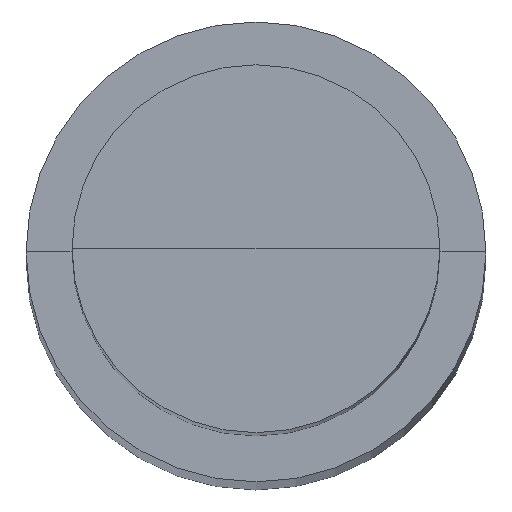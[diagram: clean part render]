
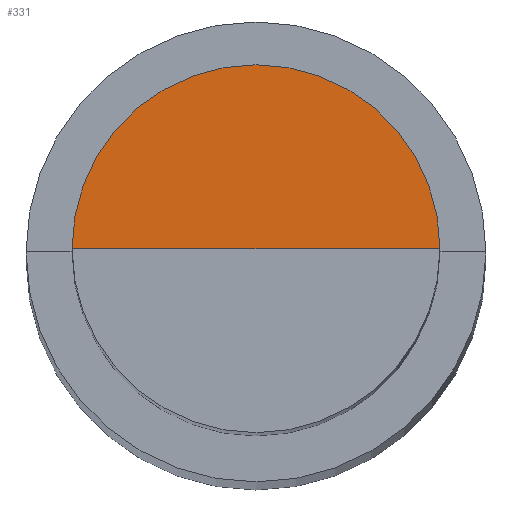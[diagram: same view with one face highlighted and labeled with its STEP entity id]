
A CAD part, top view. The second image highlights one B-rep face of the part: STEP entity #331.
In plain terms, the highlighted planar face has unit normal (0, 0, 1).
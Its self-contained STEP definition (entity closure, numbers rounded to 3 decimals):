
#12=CARTESIAN_POINT('',(4.0,0.0,178.0));
#13=CARTESIAN_POINT('',(-4.0,0.0,178.0));
#14=CARTESIAN_POINT('',(0.0,0.0,178.0));
#75=CARTESIAN_POINT('',(0.0,0.0,178.0));
#76=DIRECTION('',(0.0,0.0,1.0));
#77=DIRECTION('',(1.0,0.0,0.0));
#78=AXIS2_PLACEMENT_3D('',#75,#76,#77);
#79=CIRCLE('',#78,4.0);
#80=TRIMMED_CURVE('',#79,(#12),(#13),.T.,.CARTESIAN.);
#123=DIRECTION('',(1.0,0.0,0.0));
#124=VECTOR('',#123,1.0);
#125=LINE('',#14,#124);
#126=DIRECTION('',(1.0,0.0,0.0));
#127=VECTOR('',#126,1.0);
#128=LINE('',#13,#127);
#189=CARTESIAN_POINT('',(0.0,0.0,178.0));
#190=DIRECTION('',(0.0,0.0,1.0));
#191=DIRECTION('',(1.0,0.0,0.0));
#192=AXIS2_PLACEMENT_3D('',#189,#190,#191);
#193=PLANE('',#192);
#210=VERTEX_POINT('',#12);
#211=VERTEX_POINT('',#13);
#212=VERTEX_POINT('',#14);
#223=EDGE_CURVE('',#210,#211,#80,.T.);
#237=EDGE_CURVE('',#212,#210,#125,.T.);
#238=EDGE_CURVE('',#211,#212,#128,.T.);
#285=ORIENTED_EDGE('',*,*,#223,.T.);
#286=ORIENTED_EDGE('',*,*,#238,.T.);
#287=ORIENTED_EDGE('',*,*,#237,.T.);
#303=EDGE_LOOP('',(#285,#286,#287));
#317=FACE_OUTER_BOUND('',#303,.T.);
#331=ADVANCED_FACE('',(#317),#193,.T.);
